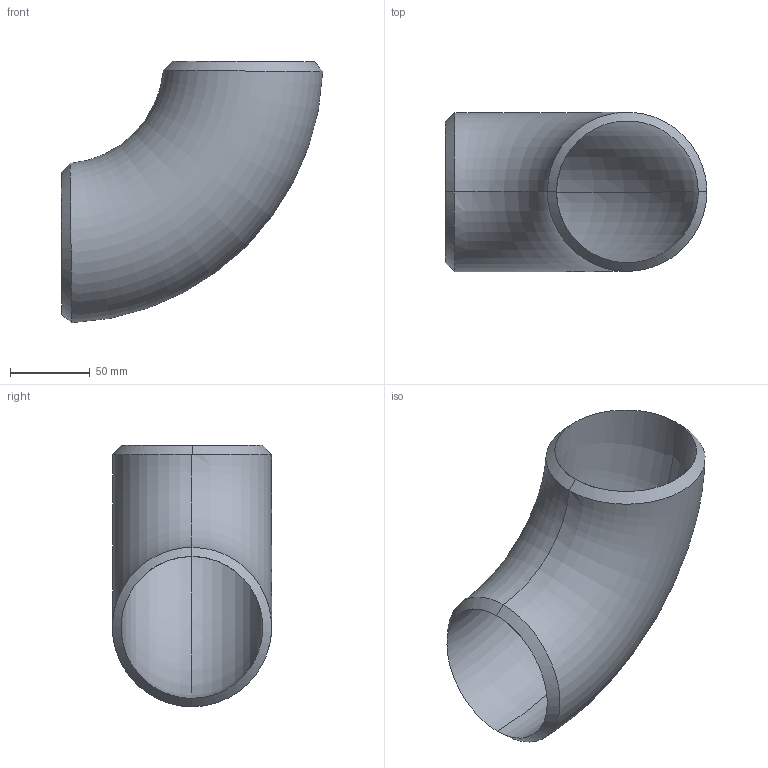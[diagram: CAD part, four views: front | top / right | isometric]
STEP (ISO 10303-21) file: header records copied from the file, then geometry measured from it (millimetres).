
FILE_DESCRIPTION (( 'STEP AP203' ), '1' );
FILE_NAME ('3D_R2651_3X40S_173421180_173425180.STEP', '2024-08-22T09:03:48', ( '' ), ( '' ), 'SwSTEP 2.0', 'SolidWorks 2024', '' );
FILE_SCHEMA (( 'CONFIG_CONTROL_DESIGN' ));
Length unit declared in the file: millimetre
Products named in the file (1): 3D_R2651_3X40S_173421180_173425180
Bounding box: 164.12 x 99.85 x 164.12 mm (x, y, z)
Volume: 277341.9 mm3; surface area: 107115.6 mm2
Topology: 1 solids, 1 shells, 10 faces, 26 edges, 16 vertices
Faces by surface type: bspline 4, torus 4, plane 2
Entity records: 3377 total; most frequent: CARTESIAN_POINT 3091, ORIENTED_EDGE 52, DIRECTION 30, EDGE_CURVE 26, B_SPLINE_CURVE_WITH_KNOTS 18, VERTEX_POINT 16, AXIS2_PLACEMENT_3D 15, ADVANCED_FACE 10
